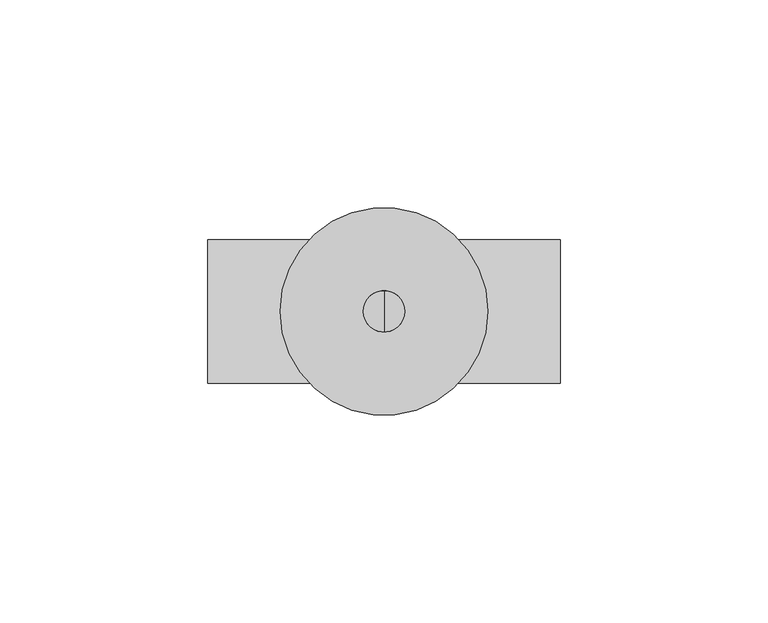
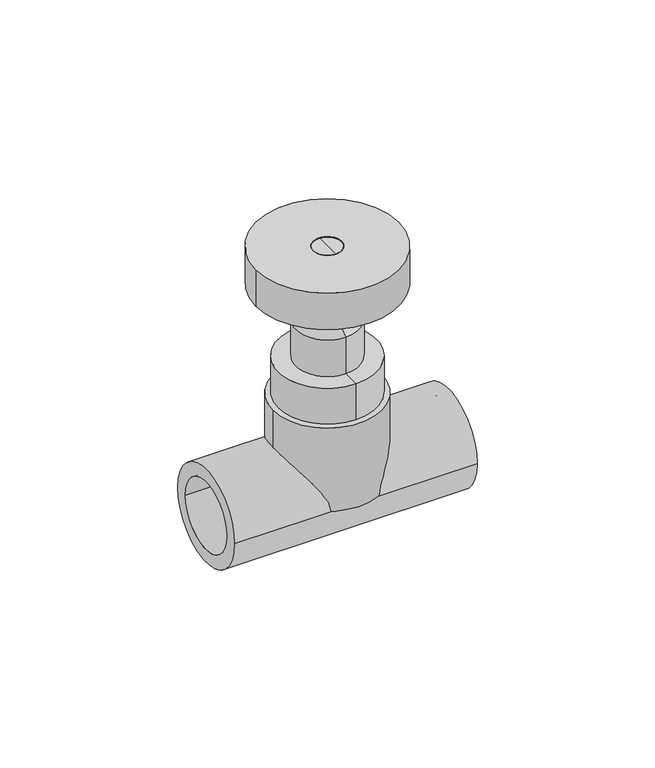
"""IFC4 building model written with IfcOpenShell, lengths in millimetres: valve geometry, EGB_VASEN_ PPR_Valvula de corte con volante WXR830 : Válvula de corte con volante WXR830."""

from ifc_helpers import new_model, si_unit, point, frame, origin, origin_with_axes, origin_2d, place, context, project, spatial, polyline, circle_curve, trimmed, segment, composite_curve, outline, extrude, source, transform, mapped, element, save
from ifc_brep_helpers import plane_surface, cylinder_surface, revolved_surface, advanced_brep


def valve_b4b2ed67(model_context):
    return source(origin(), model_context, "Body", "SolidModel", [
        extrude(outline(composite_curve([segment(trimmed(circle_curve(origin_2d(), 18.975), [point((-18.975, 0.0))], [point((18.975, 0.0))], False, "CARTESIAN"), True, "CONTINUOUS"), segment(trimmed(circle_curve(origin_2d(), 18.975), [point((18.975, 0.0))], [point((-18.975, 0.0))], False, "CARTESIAN"), True, "CONTINUOUS")], self_intersect=False)), origin_with_axes(), (0.0, 0.0, 1.0), 30.8),
        extrude(outline(composite_curve([segment(trimmed(circle_curve(origin_2d(), 17.25), [point((-17.25, 0.0))], [point((17.25, 0.0))], False, "CARTESIAN"), True, "CONTINUOUS"), segment(trimmed(circle_curve(origin_2d(), 17.25), [point((17.25, 0.0))], [point((-17.25, 0.0))], False, "CARTESIAN"), True, "CONTINUOUS")], self_intersect=False), holes=[composite_curve([segment(trimmed(circle_curve(origin_2d(), 12.5), [point((-12.5, 0.0))], [point((12.5, 0.0))], True, "CARTESIAN"), True, "CONTINUOUS"), segment(trimmed(circle_curve(origin_2d(), 12.5), [point((12.5, 0.0))], [point((-12.5, 0.0))], True, "CARTESIAN"), True, "CONTINUOUS")], self_intersect=False)]), frame((-42.5, 0.0, 0.0), z_axis=(1.0, 0.0, 0.0), x_axis=(0.0, 1.0, 0.0)), (0.0, 0.0, 1.0), 85.0),
        extrude(outline(composite_curve([segment(trimmed(circle_curve(origin_2d(), 25.0), [point((25.0, 0.0))], [point((-25.0, 0.0))], False, "CARTESIAN"), True, "CONTINUOUS"), segment(trimmed(circle_curve(origin_2d(), 25.0), [point((-25.0, 0.0))], [point((25.0, 0.0))], False, "CARTESIAN"), True, "CONTINUOUS")], self_intersect=False), holes=[composite_curve([segment(trimmed(circle_curve(origin_2d(), 5.0), [point((5.0, 0.0))], [point((-5.0, 0.0))], True, "CARTESIAN"), True, "CONTINUOUS"), segment(trimmed(circle_curve(origin_2d(), 5.0), [point((-5.0, 0.0))], [point((5.0, 0.0))], True, "CARTESIAN"), True, "CONTINUOUS")], self_intersect=False)]), frame((0.0, 0.0, 71.45), z_axis=(0.0, 0.0, 1.0), x_axis=(1.0, 0.0, 0.0)), (0.0, 0.0, 1.0), 13.55),
        advanced_brep(
        [(0.0, -11.125, 44.35), (0.0, 11.125, 44.35), (0.0, 17.25, 44.35), (0.0, -17.25, 44.35), (0.0, -11.125, 57.9), (0.0, 11.125, 57.9), (0.0, -5.0, 62.6272839), (0.0, 5.0, 62.6272839), (0.0, -5.0, 85.0), (0.0, 5.0, 85.0), (0.0, 0.0, 85.0), (0.0, -17.25, 30.8), (0.0, 17.25, 30.8), (0.0, 0.0, 30.8)],
        [
            (0, 1, circle_curve(frame((0.0, 0.0, 44.35), z_axis=(0.0, 0.0, -1.0), x_axis=(0.0, 1.0, 0.0)), 11.125)),
            (1, 2),
            (2, 3, circle_curve(frame((0.0, 0.0, 44.35), z_axis=(0.0, 0.0, 1.0), x_axis=(0.0, 1.0, 0.0)), 17.25)),
            (3, 0),
            (1, 0, circle_curve(frame((0.0, 0.0, 44.35), z_axis=(0.0, 0.0, -1.0), x_axis=(0.0, 1.0, 0.0)), 11.125)),
            (3, 2, circle_curve(frame((0.0, 0.0, 44.35), z_axis=(0.0, 0.0, 1.0), x_axis=(0.0, 1.0, 0.0)), 17.25)),
            (4, 5, circle_curve(frame((0.0, 0.0, 57.9), z_axis=(0.0, 0.0, -1.0), x_axis=(0.0, 1.0, 0.0)), 11.125)),
            (5, 1),
            (0, 4),
            (5, 4, circle_curve(frame((0.0, 0.0, 57.9), z_axis=(0.0, 0.0, -1.0), x_axis=(0.0, 1.0, 0.0)), 11.125)),
            (6, 7, circle_curve(frame((0.0, 0.0, 62.6272839), z_axis=(0.0, 0.0, -1.0), x_axis=(0.0, 1.0, 0.0)), 5.0)),
            (7, 5),
            (4, 6),
            (7, 6, circle_curve(frame((0.0, 0.0, 62.6272839), z_axis=(0.0, 0.0, -1.0), x_axis=(0.0, 1.0, 0.0)), 5.0)),
            (8, 9, circle_curve(frame((0.0, 0.0, 85.0), z_axis=(0.0, 0.0, -1.0), x_axis=(0.0, 1.0, 0.0)), 5.0)),
            (9, 7),
            (6, 8),
            (9, 8, circle_curve(frame((0.0, 0.0, 85.0), z_axis=(0.0, 0.0, -1.0), x_axis=(0.0, 1.0, 0.0)), 5.0)),
            (10, 9),
            (8, 10),
            (11, 12, circle_curve(frame((0.0, 0.0, 30.8), z_axis=(0.0, 0.0, -1.0), x_axis=(0.0, 1.0, 0.0)), 17.25)),
            (12, 13),
            (13, 11),
            (12, 11, circle_curve(frame((0.0, 0.0, 30.8), z_axis=(0.0, 0.0, -1.0), x_axis=(0.0, 1.0, 0.0)), 17.25)),
            (2, 12),
            (11, 3),
        ],
        [
            plane_surface(frame((0.0, 0.0, 44.35), z_axis=(0.0, 0.0, 1.0), x_axis=(0.0, 1.0, 0.0))),
            cylinder_surface(frame((0.0, 0.0, 100.0), z_axis=(0.0, 0.0, 1.0), x_axis=(0.0, 1.0, 0.0)), 11.125),
            revolved_surface(polyline([(0.0, 11.125, 57.9), (0.0, 5.0, 62.6272839)]), (0.0, 0.0, 100.0), (0.0, 0.0, 1.0)),
            cylinder_surface(frame((0.0, 0.0, 100.0), z_axis=(0.0, 0.0, 1.0), x_axis=(0.0, 1.0, 0.0)), 5.0),
            plane_surface(frame((0.0, 0.0, 85.0), z_axis=(0.0, 0.0, 1.0), x_axis=(0.0, 1.0, 0.0))),
            plane_surface(frame((0.0, 0.0, 30.8), z_axis=(0.0, 0.0, -1.0), x_axis=(0.0, 1.0, 0.0))),
            cylinder_surface(frame((0.0, 0.0, 100.0), z_axis=(0.0, 0.0, 1.0), x_axis=(0.0, 1.0, 0.0)), 17.25),
        ],
        [
            (0, [[1, 2, 3, 4]]),
            (0, [[5, -4, 6, -2]]),
            (1, [[7, 8, -1, 9]]),
            (1, [[10, -9, -5, -8]]),
            (2, [[11, 12, -7, 13]]),
            (2, [[14, -13, -10, -12]]),
            (3, [[15, 16, -11, 17]]),
            (3, [[18, -17, -14, -16]]),
            (4, [[19, -15, 20]]),
            (4, [[-20, -18, -19]]),
            (5, [[21, 22, 23]]),
            (5, [[24, -23, -22]]),
            (6, [[-3, 25, -21, 26]]),
            (6, [[-6, -26, -24, -25]]),
        ],
    ),
    ])


if __name__ == "__main__":
    model = new_model("IFC4")
    model_context = context("Model", 3, world=origin())
    ifc_project = project(units=[si_unit("LENGTHUNIT", "METRE", prefix="MILLI")], contexts=[model_context])
    site = spatial("IfcSite", under=ifc_project)
    building = spatial("IfcBuilding", under=site)
    placement = place(None, origin())
    valve_shape = valve_b4b2ed67(model_context)
    element("IfcValve", 1, ObjectType="EGB_VASEN_ PPR_Valvula de corte con volante WXR830 : Válvula de corte con volante WXR830", at=placement, inside=building, context=model_context, shape_type="MappedRepresentation", body=[
        mapped(valve_shape, transform((0.0, 0.0, 0.0), x_axis=(1.0, 0.0, 0.0), y_axis=(0.0, 1.0, 0.0), z_axis=(0.0, 0.0, 1.0))),
    ])
    save(model, "model.ifc")
